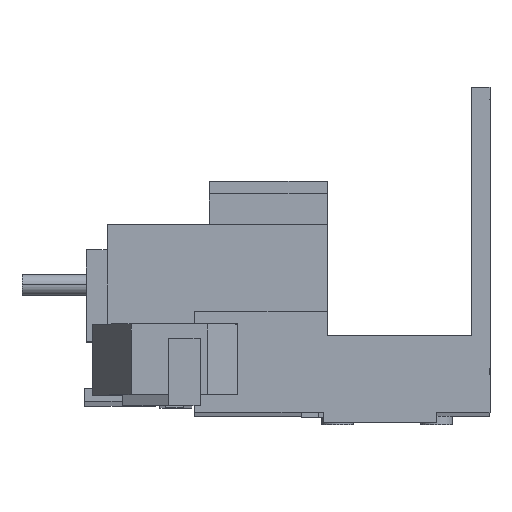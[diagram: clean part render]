
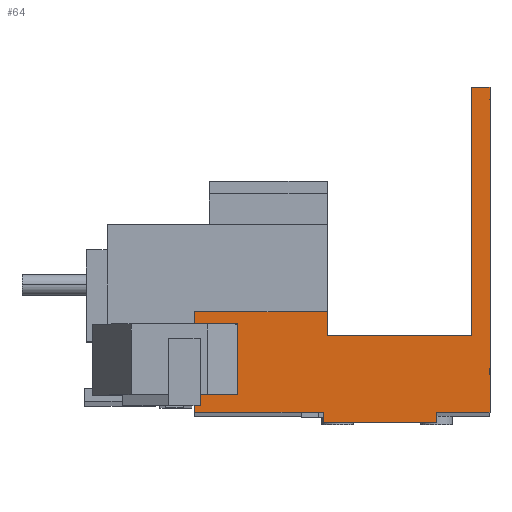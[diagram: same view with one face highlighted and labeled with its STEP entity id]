
A CAD part, front view. The second image highlights one B-rep face of the part: STEP entity #64.
In plain terms, the highlighted planar face has unit normal (0, -1, 0.002).
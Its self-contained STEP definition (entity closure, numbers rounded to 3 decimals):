
#2 = DIRECTION ( 'NONE',  ( 0., 1., -0.002 ) ) ;
#3 = DIRECTION ( 'NONE',  ( -1., 0., 0. ) ) ;
#64 = ADVANCED_FACE ( 'NONE', ( #2619 ), #929, .F. ) ;
#177 = EDGE_CURVE ( 'NONE', #2841, #2751, #3216, .T. ) ;
#212 = EDGE_CURVE ( 'NONE', #3061, #2841, #2056, .T. ) ;
#214 = EDGE_CURVE ( 'NONE', #2995, #2975, #2052, .T. ) ;
#224 = EDGE_CURVE ( 'NONE', #2774, #2995, #1829, .T. ) ;
#262 = EDGE_CURVE ( 'NONE', #2751, #2997, #1949, .T. ) ;
#265 = EDGE_CURVE ( 'NONE', #2997, #2774, #1943, .T. ) ;
#266 = EDGE_CURVE ( 'NONE', #2792, #2894, #1941, .T. ) ;
#267 = EDGE_CURVE ( 'NONE', #2969, #2792, #1825, .T. ) ;
#268 = EDGE_CURVE ( 'NONE', #2969, #2930, #1939, .T. ) ;
#597 = EDGE_CURVE ( 'NONE', #2930, #3061, #2140, .T. ) ;
#601 = EDGE_CURVE ( 'NONE', #2975, #2644, #2155, .T. ) ;
#611 = EDGE_CURVE ( 'NONE', #2644, #2894, #1750, .T. ) ;
#674 = AXIS2_PLACEMENT_3D ( 'NONE', #1713, #2, #3 ) ;
#929 = PLANE ( 'NONE',  #674 ) ;
#1713 = CARTESIAN_POINT ( 'NONE',  ( 0., -33.075, -35.931 ) ) ;
#1747 = VECTOR ( 'NONE', #4179, 1000. ) ;
#1750 = LINE ( 'NONE', #4178, #1747 ) ;
#1825 = LINE ( 'NONE', #5165, #1936 ) ;
#1826 = VECTOR ( 'NONE', #5065, 1000. ) ;
#1829 = LINE ( 'NONE', #5064, #1826 ) ;
#1852 = VECTOR ( 'NONE', #4158, 1000. ) ;
#1860 = VECTOR ( 'NONE', #4150, 1000. ) ;
#1936 = VECTOR ( 'NONE', #5182, 1000. ) ;
#1938 = VECTOR ( 'NONE', #5181, 1000. ) ;
#1939 = LINE ( 'NONE', #5164, #1971 ) ;
#1940 = VECTOR ( 'NONE', #5178, 1000. ) ;
#1941 = LINE ( 'NONE', #5179, #1938 ) ;
#1943 = LINE ( 'NONE', #5177, #1940 ) ;
#1946 = VECTOR ( 'NONE', #5172, 1000. ) ;
#1949 = LINE ( 'NONE', #5171, #1946 ) ;
#1971 = VECTOR ( 'NONE', #5184, 1000. ) ;
#2049 = VECTOR ( 'NONE', #5046, 1000. ) ;
#2052 = LINE ( 'NONE', #5045, #2049 ) ;
#2053 = VECTOR ( 'NONE', #5042, 1000. ) ;
#2056 = LINE ( 'NONE', #5041, #2053 ) ;
#2140 = LINE ( 'NONE', #4149, #1860 ) ;
#2155 = LINE ( 'NONE', #4141, #1852 ) ;
#2619 = FACE_OUTER_BOUND ( 'NONE', #3535, .T. ) ;
#2644 = VERTEX_POINT ( 'NONE', #4325 ) ;
#2716 = ORIENTED_EDGE ( 'NONE', *, *, #224, .T. ) ;
#2751 = VERTEX_POINT ( 'NONE', #4343 ) ;
#2762 = ORIENTED_EDGE ( 'NONE', *, *, #214, .T. ) ;
#2774 = VERTEX_POINT ( 'NONE', #4349 ) ;
#2792 = VERTEX_POINT ( 'NONE', #4359 ) ;
#2841 = VERTEX_POINT ( 'NONE', #4377 ) ;
#2847 = ORIENTED_EDGE ( 'NONE', *, *, #265, .T. ) ;
#2852 = ORIENTED_EDGE ( 'NONE', *, *, #611, .T. ) ;
#2894 = VERTEX_POINT ( 'NONE', #4390 ) ;
#2903 = ORIENTED_EDGE ( 'NONE', *, *, #601, .T. ) ;
#2911 = ORIENTED_EDGE ( 'NONE', *, *, #266, .F. ) ;
#2921 = ORIENTED_EDGE ( 'NONE', *, *, #267, .F. ) ;
#2930 = VERTEX_POINT ( 'NONE', #4393 ) ;
#2969 = VERTEX_POINT ( 'NONE', #4406 ) ;
#2975 = VERTEX_POINT ( 'NONE', #4411 ) ;
#2995 = VERTEX_POINT ( 'NONE', #4415 ) ;
#2997 = VERTEX_POINT ( 'NONE', #4418 ) ;
#3022 = ORIENTED_EDGE ( 'NONE', *, *, #268, .T. ) ;
#3035 = ORIENTED_EDGE ( 'NONE', *, *, #597, .T. ) ;
#3039 = ORIENTED_EDGE ( 'NONE', *, *, #212, .T. ) ;
#3061 = VERTEX_POINT ( 'NONE', #4435 ) ;
#3103 = ORIENTED_EDGE ( 'NONE', *, *, #177, .T. ) ;
#3107 = ORIENTED_EDGE ( 'NONE', *, *, #262, .T. ) ;
#3188 = VECTOR ( 'NONE', #4941, 1000. ) ;
#3216 = LINE ( 'NONE', #4935, #3188 ) ;
#3535 = EDGE_LOOP ( 'NONE', ( #2847, #2716, #2762, #2903, #2852, #2911, #2921, #3022, #3035, #3039, #3103, #3107 ) ) ;
#4141 = CARTESIAN_POINT ( 'NONE',  ( -41.6, -33.075, -35.931 ) ) ;
#4149 = CARTESIAN_POINT ( 'NONE',  ( 0., -33.075, -35.931 ) ) ;
#4150 = DIRECTION ( 'NONE',  ( 1., 0., 0. ) ) ;
#4158 = DIRECTION ( 'NONE',  ( 0., -0.002, -1. ) ) ;
#4178 = CARTESIAN_POINT ( 'NONE',  ( 0., -33.075, -35.931 ) ) ;
#4179 = DIRECTION ( 'NONE',  ( 1., 0., 0. ) ) ;
#4325 = CARTESIAN_POINT ( 'NONE',  ( -41.6, -33.075, -35.931 ) ) ;
#4343 = CARTESIAN_POINT ( 'NONE',  ( -2.55, -32.98, 9.819 ) ) ;
#4349 = CARTESIAN_POINT ( 'NONE',  ( -22.92, -33.053, -25.181 ) ) ;
#4359 = CARTESIAN_POINT ( 'NONE',  ( -23.5, -33.078, -37.431 ) ) ;
#4377 = CARTESIAN_POINT ( 'NONE',  ( 0., -32.98, 9.819 ) ) ;
#4390 = CARTESIAN_POINT ( 'NONE',  ( -23.5, -33.075, -35.931 ) ) ;
#4393 = CARTESIAN_POINT ( 'NONE',  ( -7.5, -33.075, -35.931 ) ) ;
#4406 = CARTESIAN_POINT ( 'NONE',  ( -7.5, -33.078, -37.431 ) ) ;
#4411 = CARTESIAN_POINT ( 'NONE',  ( -41.6, -33.046, -21.831 ) ) ;
#4415 = CARTESIAN_POINT ( 'NONE',  ( -22.92, -33.046, -21.831 ) ) ;
#4418 = CARTESIAN_POINT ( 'NONE',  ( -2.55, -33.053, -25.181 ) ) ;
#4435 = CARTESIAN_POINT ( 'NONE',  ( 0., -33.075, -35.931 ) ) ;
#4935 = CARTESIAN_POINT ( 'NONE',  ( -2.55, -32.98, 9.819 ) ) ;
#4941 = DIRECTION ( 'NONE',  ( -1., 0., 0. ) ) ;
#5041 = CARTESIAN_POINT ( 'NONE',  ( 0., -32.98, 9.819 ) ) ;
#5042 = DIRECTION ( 'NONE',  ( 0., 0.002, 1. ) ) ;
#5045 = CARTESIAN_POINT ( 'NONE',  ( -41.6, -33.046, -21.831 ) ) ;
#5046 = DIRECTION ( 'NONE',  ( -1., 0., 0. ) ) ;
#5064 = CARTESIAN_POINT ( 'NONE',  ( -22.92, -33.046, -21.831 ) ) ;
#5065 = DIRECTION ( 'NONE',  ( 0., 0.002, 1. ) ) ;
#5164 = CARTESIAN_POINT ( 'NONE',  ( -7.5, -33.078, -37.431 ) ) ;
#5165 = CARTESIAN_POINT ( 'NONE',  ( -7.5, -33.078, -37.431 ) ) ;
#5171 = CARTESIAN_POINT ( 'NONE',  ( -2.55, -33.072, -34.474 ) ) ;
#5172 = DIRECTION ( 'NONE',  ( 0., -0.002, -1. ) ) ;
#5177 = CARTESIAN_POINT ( 'NONE',  ( -1.75, -33.053, -25.181 ) ) ;
#5178 = DIRECTION ( 'NONE',  ( -1., 0., 0. ) ) ;
#5179 = CARTESIAN_POINT ( 'NONE',  ( -23.5, -33.078, -37.431 ) ) ;
#5181 = DIRECTION ( 'NONE',  ( 0., 0.002, 1. ) ) ;
#5182 = DIRECTION ( 'NONE',  ( -1., 0., 0. ) ) ;
#5184 = DIRECTION ( 'NONE',  ( 0., 0.002, 1. ) ) ;
